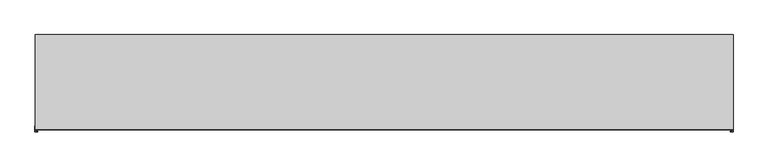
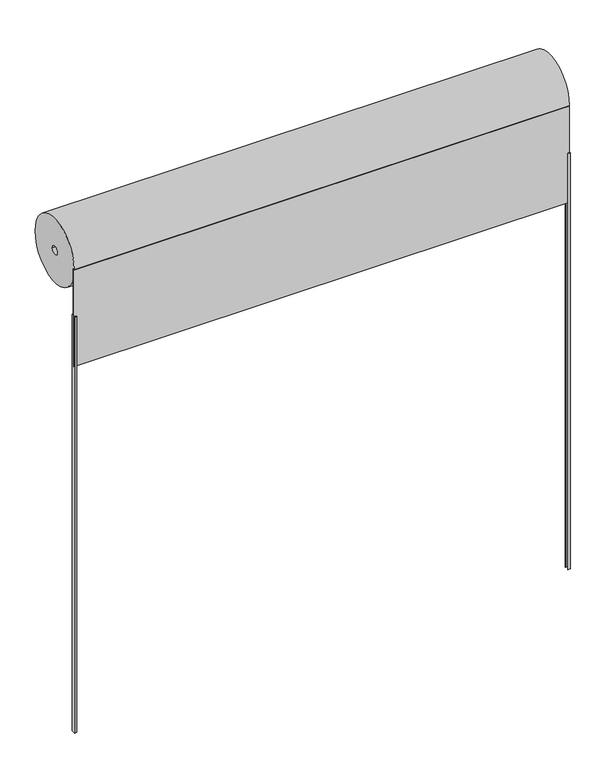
"""IFC4 building model written with IfcOpenShell, lengths in millimetres: furniture geometry, Cortina de enrollar : Cortina de enrollar."""

from ifc_helpers import new_model, si_unit, point, frame, frame_2d, origin, origin_with_axes, place, context, project, spatial, polyline, circle_curve, trimmed, segment, composite_curve, outline, extrude, source, transform, mapped, element, save


def furniture_6ba65ce6(model_context):
    return source(origin(), model_context, "Body", "SweptSolid", [
        extrude(outline(polyline([(-1420.2996736, -600.0), (-1420.2996736, -575.0), (-1407.7996736, -575.0), (-1407.7996736, -577.0), (-1418.2996736, -577.0), (-1418.2996736, -598.0), (-1407.7996736, -598.0), (-1407.7996736, -600.0), (-1420.2996736, -600.0)])), origin_with_axes(), (0.0, 0.0, 1.0), 2600.0),
        extrude(outline(polyline([(1509.7003264, -575.0), (1509.7003264, -600.0), (1497.2003264, -600.0), (1497.2003264, -598.0), (1507.7003264, -598.0), (1507.7003264, -577.0), (1497.2003264, -577.0), (1497.2003264, -575.0), (1509.7003264, -575.0)])), origin_with_axes(), (0.0, 0.0, 1.0), 2600.0),
        extrude(outline(composite_curve([segment(trimmed(circle_curve(frame_2d((-392.5, 2890.0)), 200.0), [point((-592.5, 2890.0))], [point((-192.5, 2890.0))], False, "CARTESIAN"), True, "CONTINUOUS"), segment(trimmed(circle_curve(frame_2d((-392.5, 2890.0)), 200.0), [point((-192.5, 2890.0))], [point((-592.5, 2890.0))], False, "CARTESIAN"), True, "CONTINUOUS")], self_intersect=False), holes=[composite_curve([segment(trimmed(circle_curve(frame_2d((-392.5, 2890.0)), 25.0), [point((-417.5, 2890.0))], [point((-367.5, 2890.0))], True, "CARTESIAN"), True, "CONTINUOUS"), segment(trimmed(circle_curve(frame_2d((-392.5, 2890.0)), 25.0), [point((-367.5, 2890.0))], [point((-417.5, 2890.0))], True, "CARTESIAN"), True, "CONTINUOUS")], self_intersect=False)]), frame((-1418.2996736, 0.0, 0.0), z_axis=(1.0, 0.0, 0.0), x_axis=(0.0, 1.0, 0.0)), (0.0, 0.0, 1.0), 2928.0),
        extrude(outline(polyline([(1509.7003264, -582.5), (1509.7003264, -592.5), (-1420.2996736, -592.5), (-1420.2996736, -582.5), (1509.7003264, -582.5)])), frame((0.0, 0.0, 2284.8021965), z_axis=(0.0, 0.0, 1.0), x_axis=(1.0, 0.0, 0.0)), (0.0, 0.0, 1.0), 605.1978035),
    ])


if __name__ == "__main__":
    model = new_model("IFC4")
    model_context = context("Model", 3, world=origin())
    ifc_project = project(units=[si_unit("LENGTHUNIT", "METRE", prefix="MILLI")], contexts=[model_context])
    site = spatial("IfcSite", under=ifc_project)
    building = spatial("IfcBuilding", under=site)
    placement = place(None, origin())
    furniture_shape = furniture_6ba65ce6(model_context)
    element("IfcFurniture", 1, ObjectType="Cortina de enrollar : Cortina de enrollar", at=placement, inside=building, context=model_context, shape_type="MappedRepresentation", body=[
        mapped(furniture_shape, transform((0.0, 0.0, 0.0), x_axis=(1.0, 0.0, 0.0), y_axis=(0.0, 1.0, 0.0), z_axis=(0.0, 0.0, 1.0))),
    ])
    save(model, "model.ifc")
